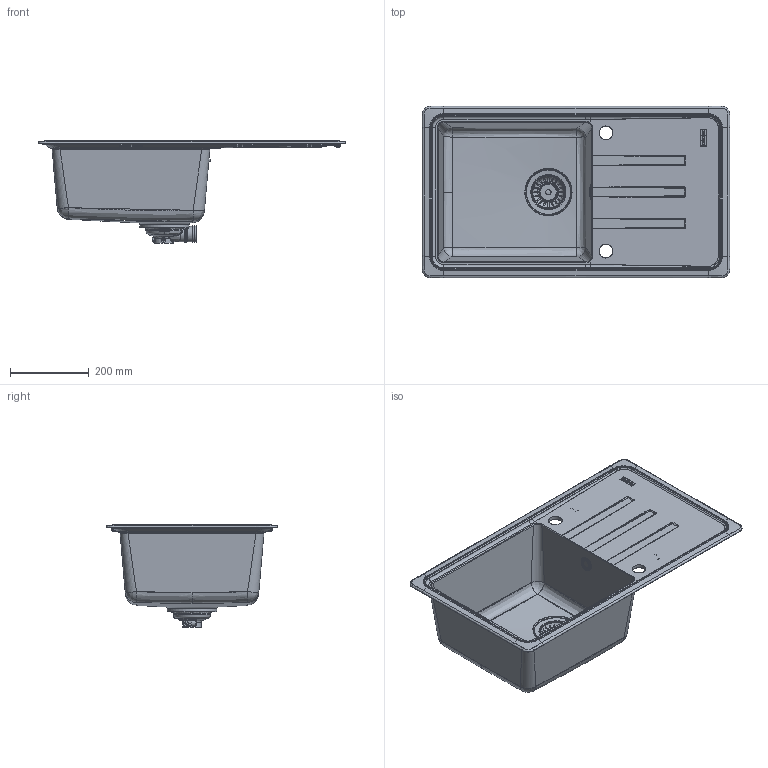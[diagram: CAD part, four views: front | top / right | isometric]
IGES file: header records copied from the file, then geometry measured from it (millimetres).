
Global section: file name: F:\_CONVERSIONE_CAD_2024_2025\_2024\03_3D kits new\Sinks\MALTA\114.0712.559 3D001_Sinks_Malta_BSG-611-78-39\3D001_Sinks_Malta_BSG-611-78-39.igs; native system: Rhinoceros ( May 17 2024 ); preprocessor: Trout Lake IGES 012 May 17 2024; date: 240711.081410; units: millimetre
Bounding box: 779.86 x 434.86 x 260.2 mm (x, y, z)
Surface area: 1200047.4 mm2 (no closed solid volume)
Topology: 0 solids, 0 shells, 1688 faces, 13740 edges, 13624 vertices
Faces by surface type: bspline 1688
